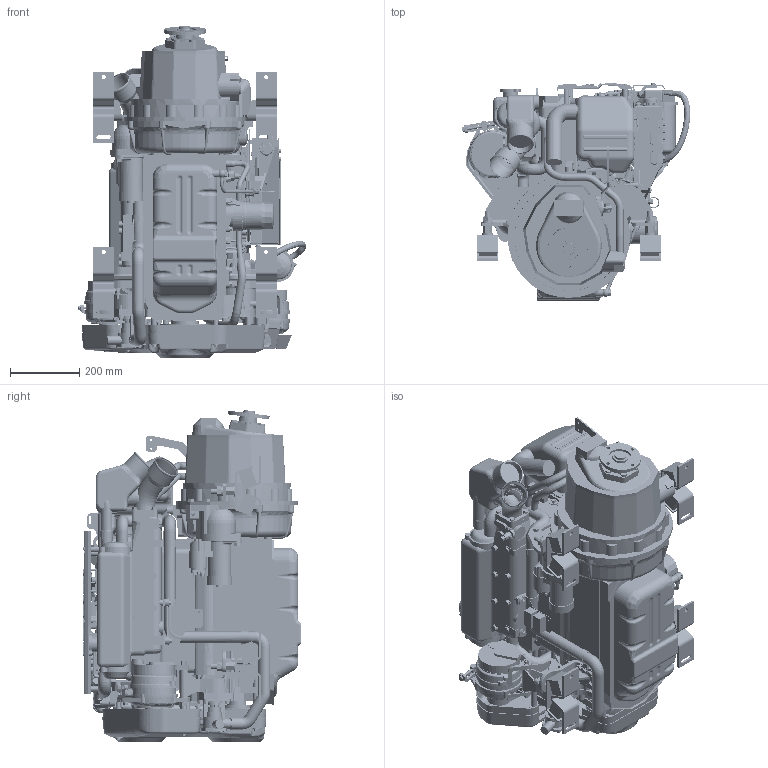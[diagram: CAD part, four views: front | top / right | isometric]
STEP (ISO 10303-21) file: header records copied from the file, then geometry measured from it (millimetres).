
FILE_DESCRIPTION((''),'2;1');
FILE_NAME('00_4JH45-57_ASM','2018-10-09T',('ib46307'),(''),'PRO/ENGINEER BY PARAMETRIC TECHNOLOGY CORPORATION, 2015360','PRO/ENGINEER BY PARAMETRIC TECHNOLOGY CORPORATION, 2015360','');
FILE_SCHEMA(('CONFIG_CONTROL_DESIGN'));
Products named in the file (119): D29C00-01100-4JH57-SW01-L_1; D29677-01210-SW01-L_1; D29677-01280-SW01_1; D29675-01300-SW01-L_1; D29670-01410-4JH57-SW01-L_1; D29677-01910-SW01-L_1; D29055-07300-1-4JH100-SW01_1; MANIFOLD_SOLID_BREP_99926; MANIFOLD_SOLID_BREP_101076; MANIFOLD_SOLID_BREP_102226; MANIFOLD_SOLID_BREP_103378; MANIFOLD_SOLID_BREP_104544; D29675-11100-SW01-L_1_ASM; D29675-11200-SW01-L_1; D29677-12100-SW01-L_1; D29619-12150-4JH57-SW01_1; MANIFOLD_SOLID_BREP_143382; MANIFOLD_SOLID_BREP_144651; D29677-21200-SW01-L_1_ASM; D29675-21300-SW01-L_1; D29A00-21700-4JH57-SW01_1; D29675-35200-SW01-L_1; D29677-39100-SW01_1; D29677-42300-SW01-L_1; MANIFOLD_SOLID_BREP_191880; MANIFOLD_SOLID_BREP_192042; D29470-49300-SW01_1_ASM; D29A00-51100-4JH110-SW01-L_1; MANIFOLD_SOLID_BREP_238151; MANIFOLD_SOLID_BREP_240293; MANIFOLD_SOLID_BREP_242436; MANIFOLD_SOLID_BREP_244581; D29675-53100-SW01_1_ASM; D29677-57110-SW01-L_1; MANIFOLD_SOLID_BREP_259652; MANIFOLD_SOLID_BREP_261683; MANIFOLD_SOLID_BREP_263714; D29677-59100-SW01-L_1_ASM; D29677-59350-SW01-L_1; B2-29675-090X-L_ASM_1_ASM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
Assembly tree (118 placements, depth 7):
  00_4JH45-57_ASM
    00_BASE_ASM
      PUB-4JH57_ASM_1_ASM
        B2-29675-001X-L_ASM_1_ASM
          B2-29675-090X-L_ASM_1_ASM
            D29C00-01100-4JH57-SW01-L_1
            D29677-01210-SW01-L_1
            D29677-01280-SW01_1
            D29675-01300-SW01-L_1
            D29670-01410-4JH57-SW01-L_1
            D29677-01910-SW01-L_1
            D29055-07300-1-4JH100-SW01_1
            D29675-11100-SW01-L_1_ASM
              MANIFOLD_SOLID_BREP_99926
              MANIFOLD_SOLID_BREP_101076
              MANIFOLD_SOLID_BREP_102226
              MANIFOLD_SOLID_BREP_103378
              MANIFOLD_SOLID_BREP_104544
            D29675-11200-SW01-L_1
            D29677-12100-SW01-L_1
            D29619-12150-4JH57-SW01_1
            D29677-21200-SW01-L_1_ASM
              MANIFOLD_SOLID_BREP_143382
              MANIFOLD_SOLID_BREP_144651
            D29675-21300-SW01-L_1
            D29A00-21700-4JH57-SW01_1
            D29675-35200-SW01-L_1
            D29677-39100-SW01_1
            D29677-42300-SW01-L_1
            D29470-49300-SW01_1_ASM
              MANIFOLD_SOLID_BREP_191880
              MANIFOLD_SOLID_BREP_192042
            D29A00-51100-4JH110-SW01-L_1
            D29675-53100-SW01_1_ASM
              MANIFOLD_SOLID_BREP_238151
              MANIFOLD_SOLID_BREP_240293
              MANIFOLD_SOLID_BREP_242436
              MANIFOLD_SOLID_BREP_244581
            D29677-57110-SW01-L_1
            D29677-59100-SW01-L_1_ASM
              MANIFOLD_SOLID_BREP_259652
              MANIFOLD_SOLID_BREP_261683
              MANIFOLD_SOLID_BREP_263714
            D29677-59350-SW01-L_1
          D29675-03100-SW01-L_1
          D29675-08100-SW01_1_ASM
            MANIFOLD_SOLID_BREP_277529
            MANIFOLD_SOLID_BREP_284870
            MANIFOLD_SOLID_BREP_286621
            MANIFOLD_SOLID_BREP_288372
          D29677-09220-SW01-L_2
          D29670-12330-4JH57-SW01-L_1
          D29271-34110-4JH57-SW01-L_1_ASM
            MANIFOLD_SOLID_BREP_341030
            MANIFOLD_SOLID_BREP_342336
          D29675-42200-SW01-L_1
          D29675-42500-SW01-L_1
          D29677-42350-SW01-L_1
          D29670-44210-4JH57-SW01-L_1
          D29670-49120-4JH57-SW01-L_1
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Bounding box: 660.33 x 631.27 x 959.8 mm (x, y, z)
Volume: 99416566.6 mm3; surface area: 8405115.4 mm2
Topology: 82 solids, 97 shells, 14118 faces, 37697 edges, 24402 vertices
Faces by surface type: plane 5999, cylinder 4524, bspline 1690, torus 880, cone 745, sphere 242, extrusion 36, revolution 2
Entity records: 625989 total; most frequent: CARTESIAN_POINT 281703, ORIENTED_EDGE 74900, DIRECTION 67525, EDGE_CURVE 37450, AXIS2_PLACEMENT_3D 25083, VERTEX_POINT 24401, VECTOR 17357, LINE 17321
